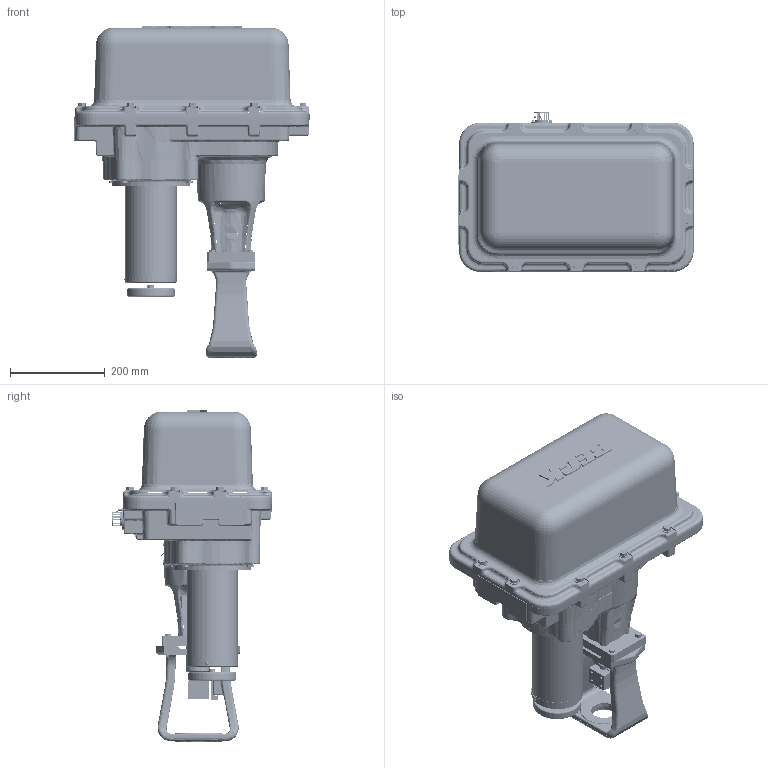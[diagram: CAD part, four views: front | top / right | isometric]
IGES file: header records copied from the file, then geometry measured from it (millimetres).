
Start section: SolidWorks IGES file using analytic representation for surfaces
Global section: file name: N:\Engineering\Product Support\Outline Dimension Models\29-250\IGES+STEP\18-2920-01.IGS; native system: SolidWorks 2009; preprocessor: SolidWorks 2009; author: jmack; date: 110624.113128; units: inch
Bounding box: 495.41 x 336.64 x 699.29 mm (x, y, z)
Surface area: 1223987.3 mm2 (no closed solid volume)
Topology: 0 solids, 0 shells, 2012 faces, 37290 edges, 37224 vertices
Faces by surface type: bspline 1131, revolution 881
